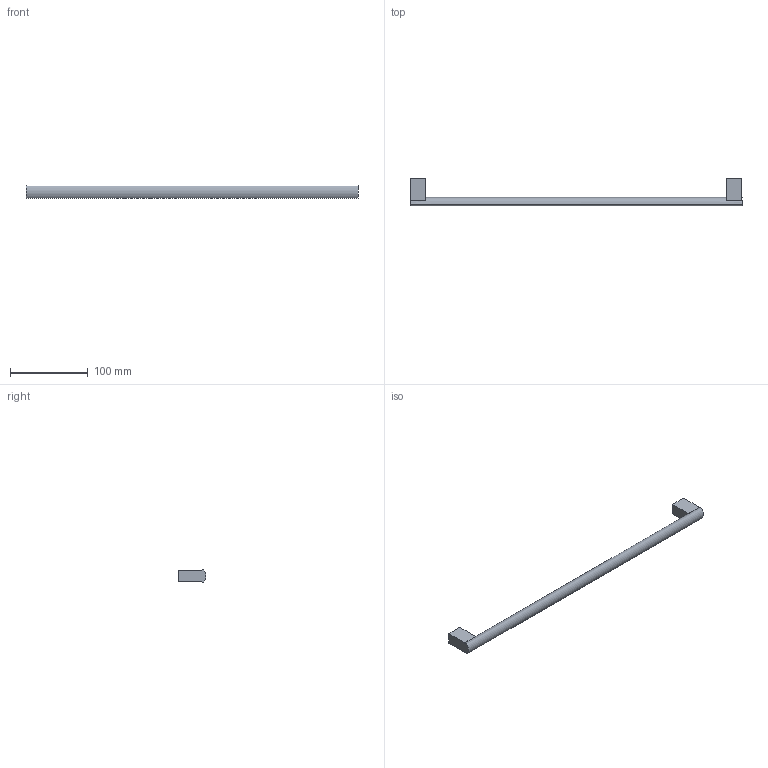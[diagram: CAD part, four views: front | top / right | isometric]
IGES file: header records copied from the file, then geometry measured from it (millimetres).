
Start section: Data from Parasolid IGES Translator 20.0.26, Copyright(c) 2006 Siemens P LM Software. All Rights Reserved.
Global section: file name: 115210.igs; native system: By Siemens PLM Incorporated; preprocessor: XPlus GENERIC/IGES 20.0.26; author: Noname; organization: Noname; date: 20230220.162158; units: millimetre
Bounding box: 428 x 35.96 x 16 mm (x, y, z)
Surface area: 22576 mm2 (no closed solid volume)
Topology: 0 solids, 0 shells, 22 faces, 102 edges, 100 vertices
Faces by surface type: extrusion 17, revolution 5
